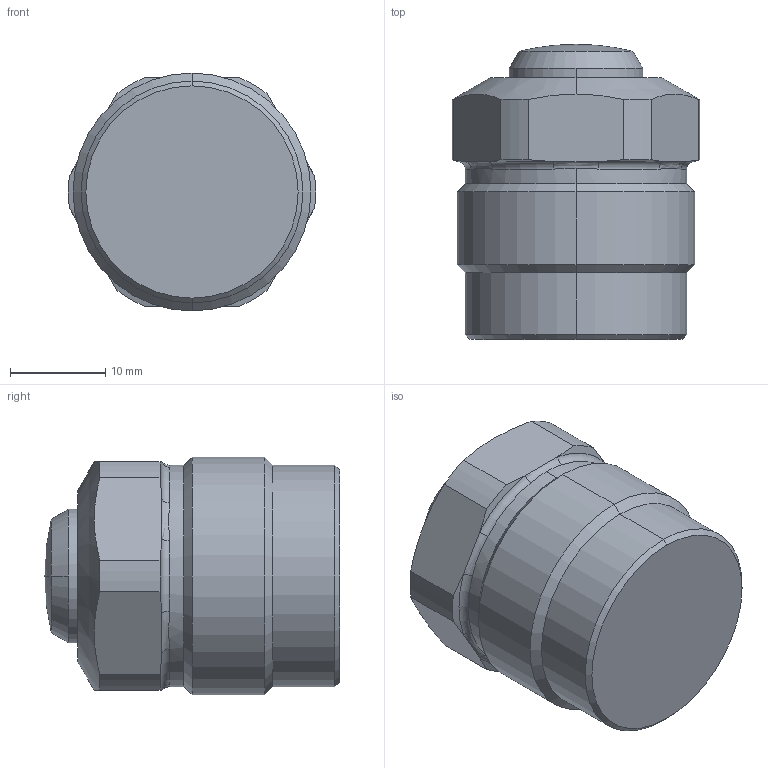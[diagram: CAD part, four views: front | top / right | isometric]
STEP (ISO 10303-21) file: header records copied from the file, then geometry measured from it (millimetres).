
FILE_DESCRIPTION((' '),'2;1');
FILE_NAME( 'CMC04-05R.X_T.stp', '2024-08-27T13:58:37', (' '), ('--- Datakit www.datakit.com---'), ' Datakit CrossCadWare V2024.1 Dec 21 2023', 'Mastercam 2025', ' ');
FILE_SCHEMA(('AUTOMOTIVE_DESIGN { 1 0 10303 214 1 1 1 1 }'));
Length unit declared in the file: millimetre
Products named in the file (1): CMC04-05R
Bounding box: 25.98 x 31 x 25 mm (x, y, z)
Volume: 13013.4 mm3; surface area: 3814.3 mm2
Topology: 2 solids, 2 shells, 56 faces, 132 edges, 79 vertices
Faces by surface type: cone 16, cylinder 16, plane 10, torus 6, bspline 6, sphere 2
Entity records: 2882 total; most frequent: CARTESIAN_POINT 1618, DIRECTION 262, ORIENTED_EDGE 260, EDGE_CURVE 130, AXIS2_PLACEMENT_3D 115, VERTEX_POINT 79, CIRCLE 64, EDGE_LOOP 57
